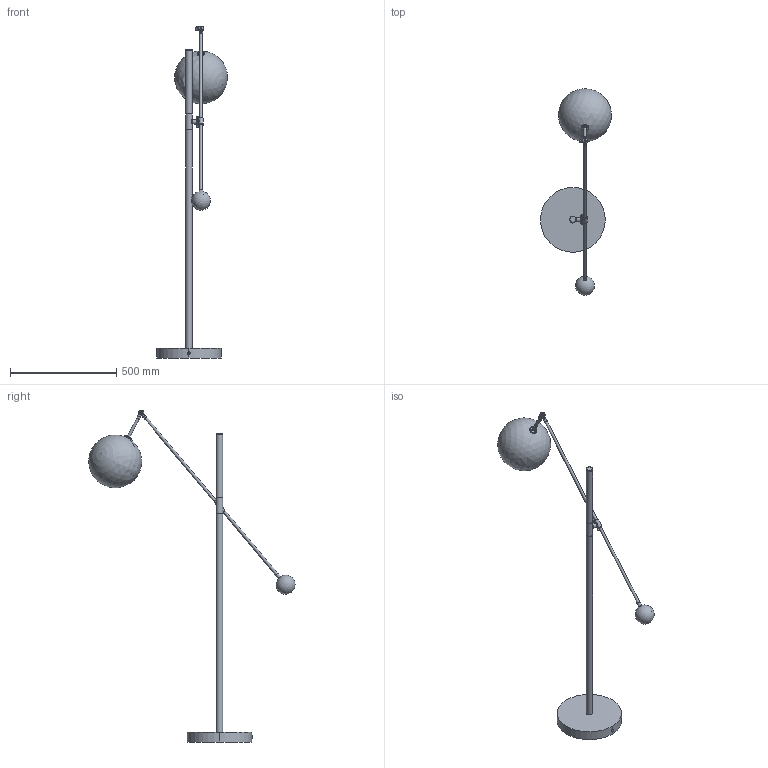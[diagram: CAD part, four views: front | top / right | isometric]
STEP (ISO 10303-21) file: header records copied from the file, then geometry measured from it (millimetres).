
FILE_DESCRIPTION(/* description */ (''),/* implementation_level */ '2;1');
FILE_NAME(/* name */ 'T:\B069 Milan 1 ARM Floor Lamp\Pliki bryłowe handlowe\B069 Milan 1 Arm 3D files\B069 Milan 1 Arm.stp',/* time_stamp */ '2022-01-19T08:58:07+01:00',/* author */ ('Mariusz Awariusz'),/* organization */ (''),/* preprocessor_version */ 'ST-DEVELOPER v18.1',/* originating_system */ 'Autodesk Inventor 2022',/* authorisation */ '');
FILE_SCHEMA (('AUTOMOTIVE_DESIGN { 1 0 10303 214 3 1 1 }'));
Length unit declared in the file: millimetre
Products named in the file (1): B069 Milan 1 Arm_jako część
Bounding box: 334.12 x 971.96 x 1564.7 mm (x, y, z)
Volume: 5235530.1 mm3; surface area: 792789.7 mm2
Topology: 2 solids, 3 shells, 171 faces, 425 edges, 273 vertices
Faces by surface type: cylinder 72, plane 56, bspline 19, cone 14, sphere 8, torus 2
Full cylindrical faces by diameter (mm): 3 x7, 4 x2, 8 x1, 10 x15, 11.6 x1, 13 x7, 15 x4, 16 x1, 16.6 x1, 18 x1, 20 x1, 22 x2, 30 x4, 33 x1, 35 x1
Entity records: 10674 total; most frequent: CARTESIAN_POINT 6785, ORIENTED_EDGE 830, DIRECTION 735, EDGE_CURVE 415, AXIS2_PLACEMENT_3D 311, VERTEX_POINT 273, EDGE_LOOP 208, FACE_OUTER_BOUND 171
